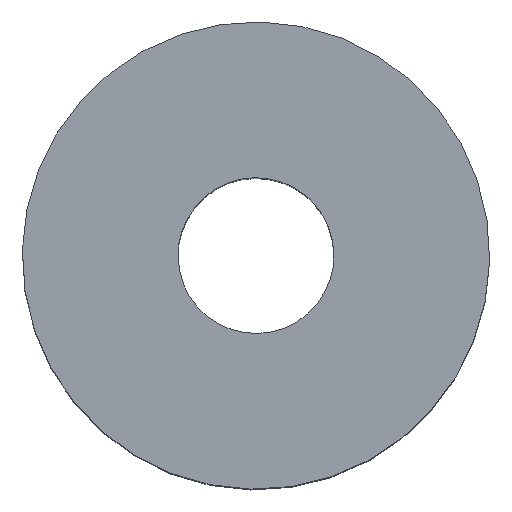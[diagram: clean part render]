
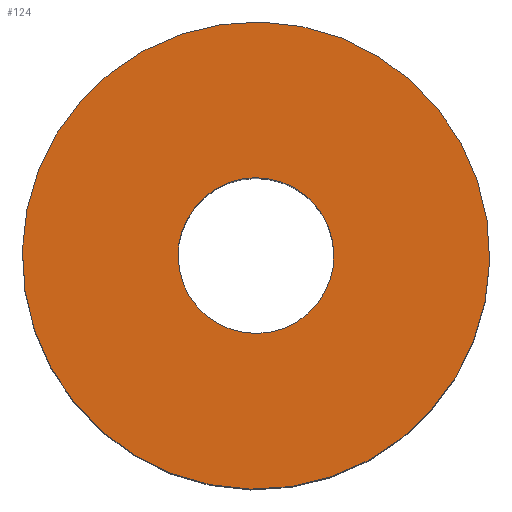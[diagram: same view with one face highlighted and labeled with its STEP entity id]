
A CAD part, top view. The second image highlights one B-rep face of the part: STEP entity #124.
In plain terms, the highlighted planar face has unit normal (0, 0, 1).
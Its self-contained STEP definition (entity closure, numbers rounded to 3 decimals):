
#63=CARTESIAN_POINT('Vertex',(-2.194,8.699,15.)) ;
#77=CARTESIAN_POINT('Vertex',(2.194,6.301,15.)) ;
#80=CARTESIAN_POINT('Axis2P3D Location',(0.,7.5,15.)) ;
#92=CARTESIAN_POINT('Axis2P3D Location',(0.,0.,15.)) ;
#97=CARTESIAN_POINT('Axis2P3D Location',(0.,7.5,15.)) ;
#101=CARTESIAN_POINT('Vertex',(3.596,0.918,15.)) ;
#103=CARTESIAN_POINT('Vertex',(-3.596,14.082,15.)) ;
#106=CARTESIAN_POINT('Axis2P3D Location',(0.,7.5,15.)) ;
#115=CARTESIAN_POINT('Axis2P3D Location',(0.,7.5,15.)) ;
#81=DIRECTION('Axis2P3D Direction',(0.,0.,-1.)) ;
#93=DIRECTION('Axis2P3D Direction',(0.,0.,1.)) ;
#94=DIRECTION('Axis2P3D XDirection',(1.,-0.,0.)) ;
#98=DIRECTION('Axis2P3D Direction',(0.,0.,1.)) ;
#107=DIRECTION('Axis2P3D Direction',(0.,0.,1.)) ;
#116=DIRECTION('Axis2P3D Direction',(0.,0.,1.)) ;
#82=AXIS2_PLACEMENT_3D('Circle Axis2P3D',#80,#81,$) ;
#95=AXIS2_PLACEMENT_3D('Plane Axis2P3D',#92,#93,#94) ;
#99=AXIS2_PLACEMENT_3D('Circle Axis2P3D',#97,#98,$) ;
#108=AXIS2_PLACEMENT_3D('Circle Axis2P3D',#106,#107,$) ;
#117=AXIS2_PLACEMENT_3D('Circle Axis2P3D',#115,#116,$) ;
#112=ORIENTED_EDGE('',*,*,#105,.T.) ;
#113=ORIENTED_EDGE('',*,*,#110,.T.) ;
#121=ORIENTED_EDGE('',*,*,#119,.F.) ;
#122=ORIENTED_EDGE('',*,*,#84,.F.) ;
#123=FACE_BOUND('',#120,.T.) ;
#124=ADVANCED_FACE('Hauptk\X2\00F6\X0\rper',(#114,#123),#96,.T.) ;
#83=CIRCLE('generated circle',#82,2.5) ;
#100=CIRCLE('generated circle',#99,7.5) ;
#109=CIRCLE('generated circle',#108,7.5) ;
#118=CIRCLE('generated circle',#117,2.5) ;
#84=EDGE_CURVE('',#78,#64,#83,.F.) ;
#105=EDGE_CURVE('',#102,#104,#100,.T.) ;
#110=EDGE_CURVE('',#104,#102,#109,.T.) ;
#119=EDGE_CURVE('',#64,#78,#118,.T.) ;
#111=EDGE_LOOP('',(#112,#113)) ;
#120=EDGE_LOOP('',(#121,#122)) ;
#114=FACE_OUTER_BOUND('',#111,.T.) ;
#96=PLANE('',#95) ;
#64=VERTEX_POINT('',#63) ;
#78=VERTEX_POINT('',#77) ;
#102=VERTEX_POINT('',#101) ;
#104=VERTEX_POINT('',#103) ;
